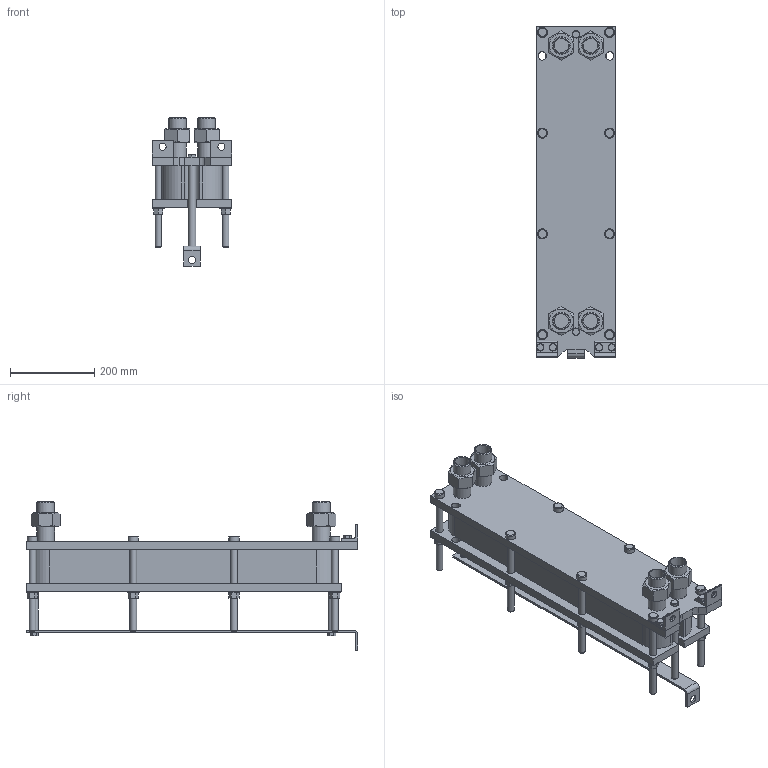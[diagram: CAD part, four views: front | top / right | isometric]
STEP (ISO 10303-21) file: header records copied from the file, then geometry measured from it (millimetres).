
FILE_DESCRIPTION(/* description */ (''),/* implementation_level */ '2;1');
FILE_NAME(/* name */ 'C:\Users\zhuro\Desktop\ENCO\TO\ЭН-008\ЭН-0,5-008-26-1.stp',/* time_stamp */ '2022-06-06T10:46:56+03:00',/* author */ ('zhuro'),/* organization */ (''),/* preprocessor_version */ 'ST-DEVELOPER v18.1',/* originating_system */ 'Autodesk Inventor 2022',/* authorisation */ '');
FILE_SCHEMA (('AUTOMOTIVE_DESIGN { 1 0 10303 214 3 1 1 }'));
Length unit declared in the file: millimetre
Products named in the file (1): ЭН-0,5-008-26-1
Bounding box: 190 x 790 x 353.8 mm (x, y, z)
Volume: 14875132.9 mm3; surface area: 1395571.3 mm2
Topology: 40 solids, 40 shells, 428 faces, 924 edges, 606 vertices
Faces by surface type: plane 273, cylinder 109, cone 40, torus 6
Full cylindrical faces by diameter (mm): 12 x6, 14 x2, 16 x20, 17 x8, 18 x19, 20 x5, 24 x8, 28 x8, 34.3 x8, 42.3 x8
Entity records: 15843 total; most frequent: CARTESIAN_POINT 5991, DIRECTION 1984, ORIENTED_EDGE 1848, EDGE_CURVE 924, AXIS2_PLACEMENT_3D 715, VERTEX_POINT 606, LINE 554, VECTOR 554
